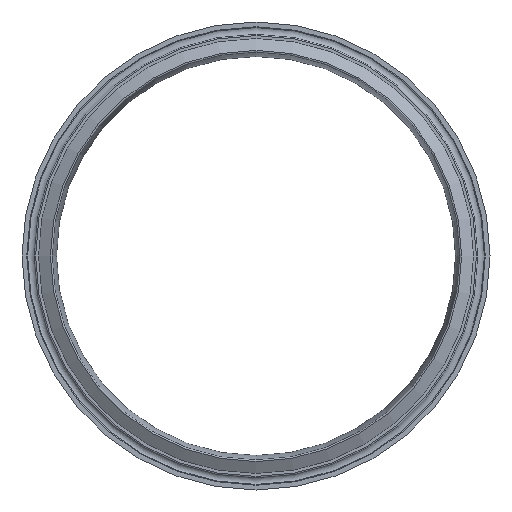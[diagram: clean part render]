
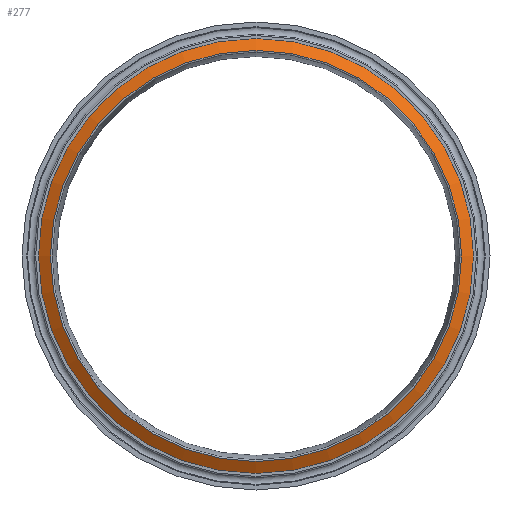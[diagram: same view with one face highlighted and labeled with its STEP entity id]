
A CAD part, left-side view. The second image highlights one B-rep face of the part: STEP entity #277.
In plain terms, the highlighted conical face has half-angle 60 degrees and reference radius 40.37 mm.
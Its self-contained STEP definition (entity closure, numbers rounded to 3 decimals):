
#34=ORIENTED_EDGE('',*,*,#64,.T.);
#35=ORIENTED_EDGE('',*,*,#65,.F.);
#64=EDGE_CURVE('',#79,#79,#94,.T.);
#65=EDGE_CURVE('',#80,#80,#95,.T.);
#79=VERTEX_POINT('',#392);
#80=VERTEX_POINT('',#394);
#94=CIRCLE('',#298,38.166);
#95=CIRCLE('',#299,40.37);
#109=EDGE_LOOP('',(#34));
#110=EDGE_LOOP('',(#35));
#139=FACE_BOUND('',#109,.T.);
#140=FACE_BOUND('',#110,.T.);
#169=CONICAL_SURFACE('',#297,40.37,1.047);
#277=ADVANCED_FACE('',(#139,#140),#169,.T.);
#297=AXIS2_PLACEMENT_3D('',#390,#329,#330);
#298=AXIS2_PLACEMENT_3D('',#391,#331,#332);
#299=AXIS2_PLACEMENT_3D('',#393,#333,#334);
#329=DIRECTION('',(1.,0.,0.));
#330=DIRECTION('',(0.,0.,-1.));
#331=DIRECTION('',(1.,0.,0.));
#332=DIRECTION('',(0.,0.,-1.));
#333=DIRECTION('',(1.,0.,0.));
#334=DIRECTION('',(0.,0.,-1.));
#390=CARTESIAN_POINT('',(1.3,0.,0.));
#391=CARTESIAN_POINT('',(0.028,0.,0.));
#392=CARTESIAN_POINT('',(0.028,0.,-38.166));
#393=CARTESIAN_POINT('',(1.3,0.,0.));
#394=CARTESIAN_POINT('',(1.3,0.,-40.37));
